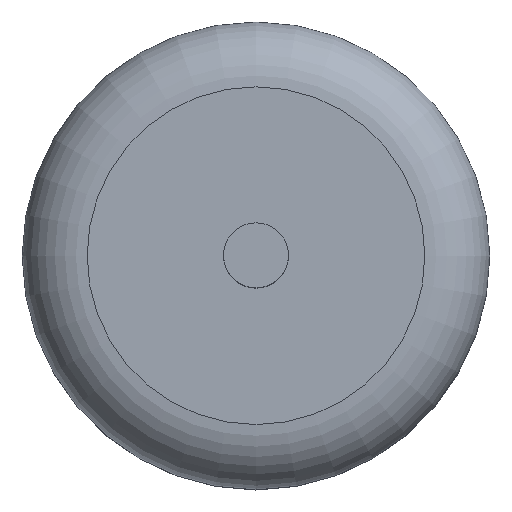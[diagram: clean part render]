
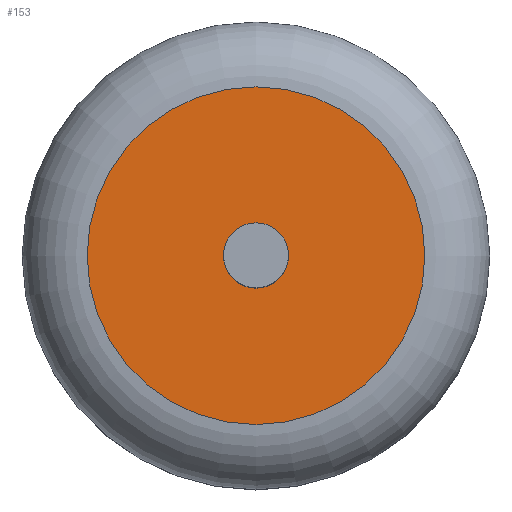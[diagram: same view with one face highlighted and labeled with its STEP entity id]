
A CAD part, top view. The second image highlights one B-rep face of the part: STEP entity #153.
In plain terms, the highlighted planar face has unit normal (0, 0, 1).
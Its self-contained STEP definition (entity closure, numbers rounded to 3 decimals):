
#78=FACE_BOUND('',#268,.T.);
#79=FACE_BOUND('',#269,.T.);
#108=PLANE('',#947);
#153=ADVANCED_FACE('',(#78,#79),#108,.T.);
#268=EDGE_LOOP('',(#634));
#269=EDGE_LOOP('',(#635));
#634=ORIENTED_EDGE('',*,*,#829,.F.);
#635=ORIENTED_EDGE('',*,*,#830,.T.);
#718=VERTEX_POINT('',#1494);
#719=VERTEX_POINT('',#1496);
#829=EDGE_CURVE('',#718,#718,#866,.T.);
#830=EDGE_CURVE('',#719,#719,#867,.T.);
#866=CIRCLE('',#945,2.5);
#867=CIRCLE('',#946,13.);
#945=AXIS2_PLACEMENT_3D('',#1493,#1177,#1178);
#946=AXIS2_PLACEMENT_3D('',#1495,#1179,#1180);
#947=AXIS2_PLACEMENT_3D('',#1497,#1181,#1182);
#1177=DIRECTION('',(0.,0.,1.));
#1178=DIRECTION('',(1.,0.,0.));
#1179=DIRECTION('',(0.,0.,1.));
#1180=DIRECTION('',(1.,0.,0.));
#1181=DIRECTION('',(0.,0.,1.));
#1182=DIRECTION('',(1.,0.,0.));
#1493=CARTESIAN_POINT('',(1.8,1.1,30.));
#1494=CARTESIAN_POINT('',(4.3,1.1,30.));
#1495=CARTESIAN_POINT('',(1.8,1.1,30.));
#1496=CARTESIAN_POINT('',(14.8,1.1,30.));
#1497=CARTESIAN_POINT('',(1.8,1.1,30.));
